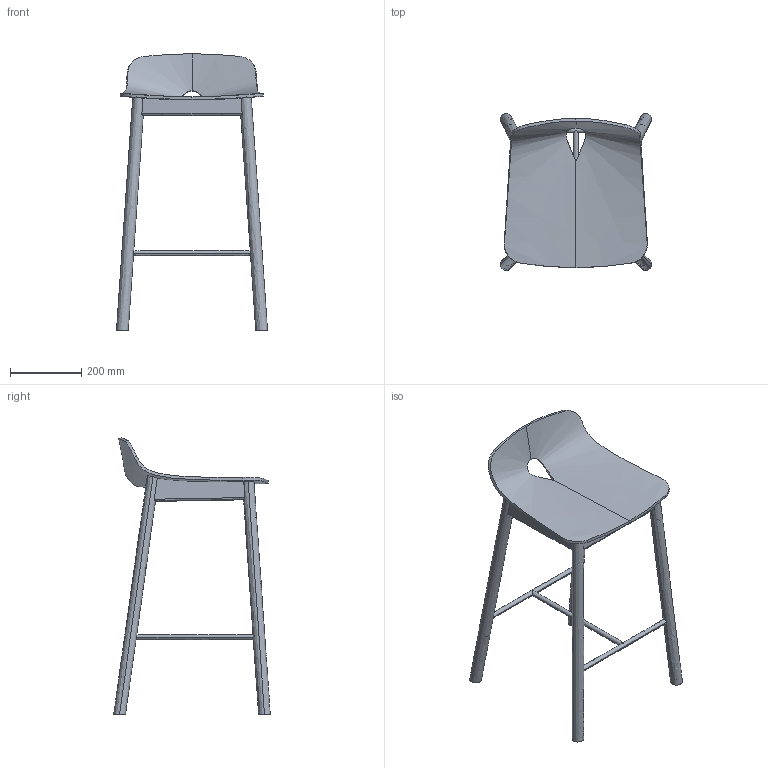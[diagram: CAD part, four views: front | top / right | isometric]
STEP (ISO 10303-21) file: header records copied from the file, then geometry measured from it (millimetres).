
FILE_DESCRIPTION(/* description */ (''),/* implementation_level */ '2;1');
FILE_NAME(/* name */ 'Mono counter chair',/* time_stamp */ '2019-09-17T13:18:06+02:00',/* author */ (''),/* organization */ (''),/* preprocessor_version */ 'ST-DEVELOPER v15',/* originating_system */ '',/* authorisation */ '');
FILE_SCHEMA (('AUTOMOTIVE_DESIGN'));
Length unit declared in the file: millimetre
Products named in the file (1): Document
Bounding box: 423.92 x 439.55 x 775 mm (x, y, z)
Volume: 2612804.8 mm3; surface area: 839879.6 mm2
Topology: 8 solids, 12 shells, 77 faces, 175 edges, 116 vertices
Faces by surface type: bspline 63, plane 14
Entity records: 21479 total; most frequent: CARTESIAN_POINT 20243, ORIENTED_EDGE 342, EDGE_CURVE 175, B_SPLINE_CURVE_WITH_KNOTS 146, VERTEX_POINT 116, ADVANCED_FACE 77, FACE_OUTER_BOUND 77, EDGE_LOOP 77
